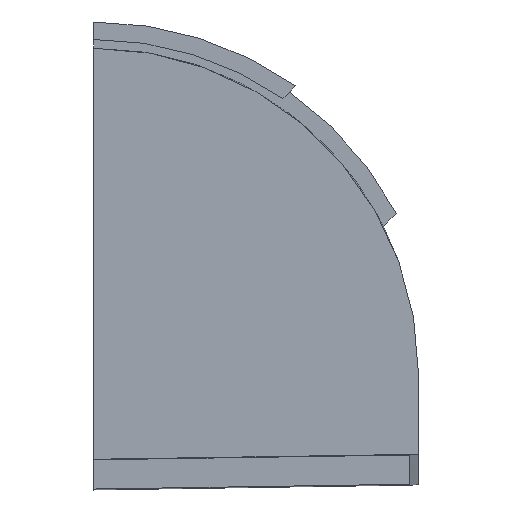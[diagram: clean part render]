
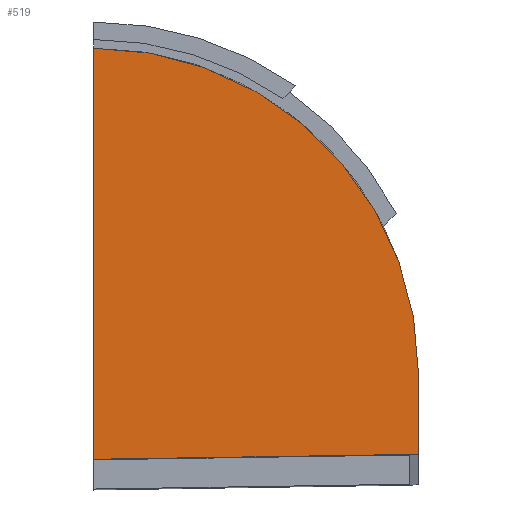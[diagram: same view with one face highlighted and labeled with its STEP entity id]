
A CAD part, left-side view. The second image highlights one B-rep face of the part: STEP entity #519.
In plain terms, the highlighted planar face has unit normal (-1, 0, 0).
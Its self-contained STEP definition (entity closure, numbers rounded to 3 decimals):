
#23=B_SPLINE_CURVE_WITH_KNOTS('',3,(#987,#988,#989,#990),.UNSPECIFIED.,
 .F.,.F.,(4,4),(0.013,3.73),.UNSPECIFIED.);
#53=CIRCLE('',#565,37.171);
#76=FACE_OUTER_BOUND('',#104,.T.);
#104=EDGE_LOOP('',(#438,#439,#440,#441));
#144=LINE('',#825,#189);
#152=LINE('',#1013,#197);
#189=VECTOR('',#662,10.);
#197=VECTOR('',#688,10.);
#238=VERTEX_POINT('',#819);
#239=VERTEX_POINT('',#824);
#247=VERTEX_POINT('',#976);
#250=VERTEX_POINT('',#1012);
#300=EDGE_CURVE('',#239,#238,#144,.T.);
#315=EDGE_CURVE('',#238,#247,#23,.T.);
#319=EDGE_CURVE('',#250,#247,#152,.T.);
#320=EDGE_CURVE('',#239,#250,#53,.T.);
#438=ORIENTED_EDGE('',*,*,#315,.T.);
#439=ORIENTED_EDGE('',*,*,#319,.F.);
#440=ORIENTED_EDGE('',*,*,#320,.F.);
#441=ORIENTED_EDGE('',*,*,#300,.T.);
#496=PLANE('',#564);
#519=ADVANCED_FACE('',(#76),#496,.F.);
#564=AXIS2_PLACEMENT_3D('',#1011,#686,#687);
#565=AXIS2_PLACEMENT_3D('',#1014,#689,#690);
#662=DIRECTION('',(0.,0.,-1.));
#686=DIRECTION('center_axis',(1.,0.,0.));
#687=DIRECTION('ref_axis',(0.,1.,-0.016));
#688=DIRECTION('',(0.,0.,-1.));
#689=DIRECTION('center_axis',(1.,0.,0.));
#690=DIRECTION('ref_axis',(0.,0.,1.));
#819=CARTESIAN_POINT('',(425.697,-138.443,-92.066));
#824=CARTESIAN_POINT('',(425.697,-138.443,-45.008));
#825=CARTESIAN_POINT('',(425.697,-138.443,-63.279));
#976=CARTESIAN_POINT('',(425.697,-175.614,-91.5));
#987=CARTESIAN_POINT('Ctrl Pts',(425.697,-138.443,-92.066));
#988=CARTESIAN_POINT('Ctrl Pts',(425.697,-150.833,-91.877));
#989=CARTESIAN_POINT('Ctrl Pts',(425.697,-163.224,-91.688));
#990=CARTESIAN_POINT('Ctrl Pts',(425.697,-175.614,-91.5));
#1011=CARTESIAN_POINT('Origin',(425.697,-146.528,-79.204));
#1012=CARTESIAN_POINT('',(425.697,-175.614,-82.179));
#1013=CARTESIAN_POINT('',(425.697,-175.614,-91.454));
#1014=CARTESIAN_POINT('Origin',(425.697,-138.443,-82.179));
